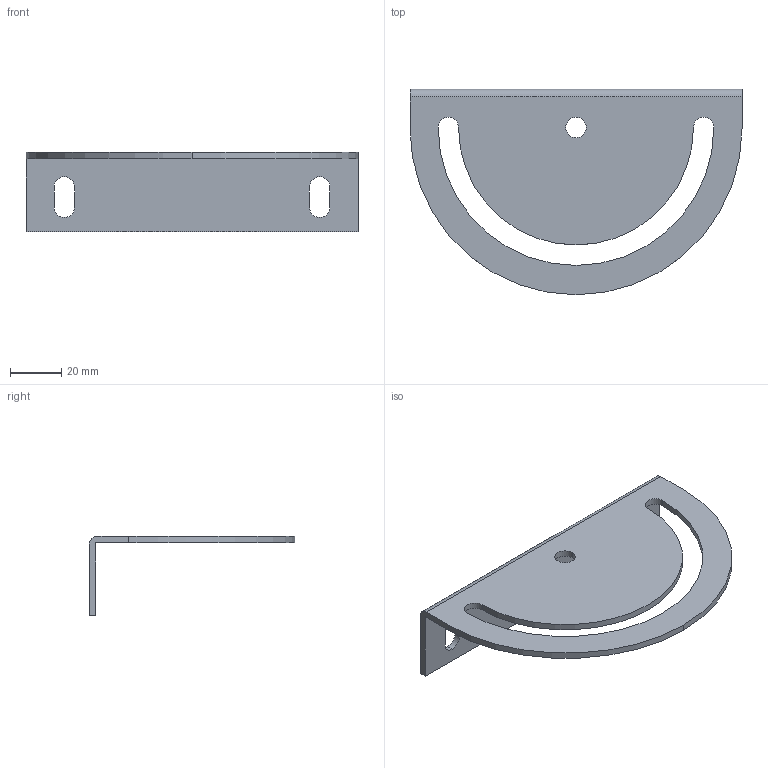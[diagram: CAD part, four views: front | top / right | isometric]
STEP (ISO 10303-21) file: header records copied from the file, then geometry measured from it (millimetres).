
FILE_DESCRIPTION (( 'STEP AP203' ), '1' );
FILE_NAME ('2050.STEP', '2016-04-17T09:26:07', ( '' ), ( '' ), 'SwSTEP 2.0', 'SolidWorks 2014', '' );
FILE_SCHEMA (( 'CONFIG_CONTROL_DESIGN' ));
Length unit declared in the file: millimetre
Products named in the file (1): 2050
Bounding box: 130 x 80.5 x 31 mm (x, y, z)
Volume: 26676.2 mm3; surface area: 23542.8 mm2
Topology: 1 solids, 1 shells, 26 faces, 72 edges, 48 vertices
Faces by surface type: cylinder 15, plane 11
Entity records: 939 total; most frequent: DIRECTION 156, CARTESIAN_POINT 147, ORIENTED_EDGE 144, EDGE_CURVE 72, AXIS2_PLACEMENT_3D 57, VERTEX_POINT 48, LINE 42, VECTOR 42
